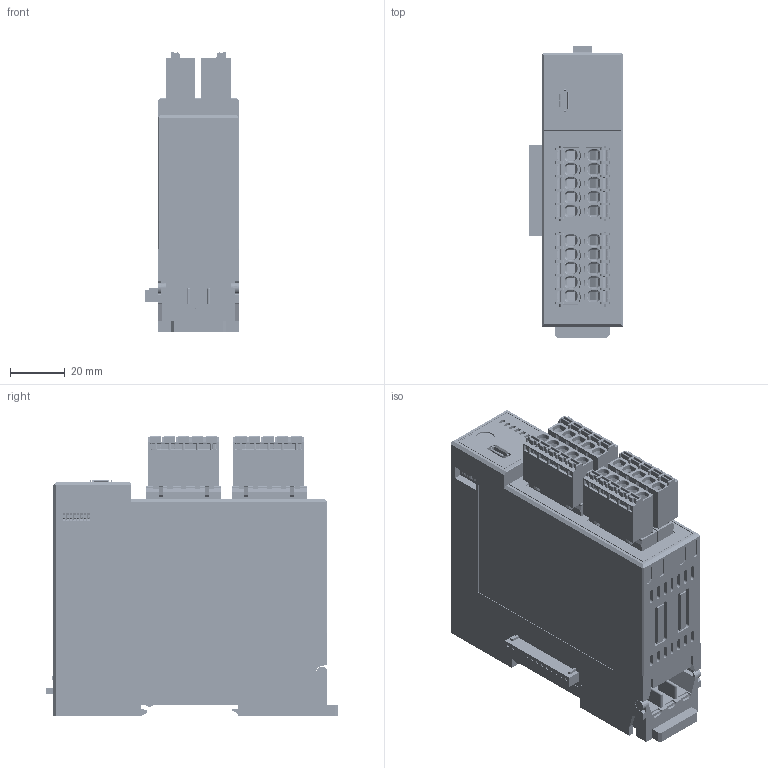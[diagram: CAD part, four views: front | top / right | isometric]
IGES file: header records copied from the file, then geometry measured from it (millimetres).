
Start section: SolidWorks IGES file using analytic representation for surfaces
Bounding box: 34.5 x 106.35 x 102 mm (x, y, z)
Surface area: 54413.8 mm2 (no closed solid volume)
Topology: 0 solids, 0 shells, 6370 faces, 42891 edges, 42815 vertices
Faces by surface type: bspline 4126, revolution 2244
